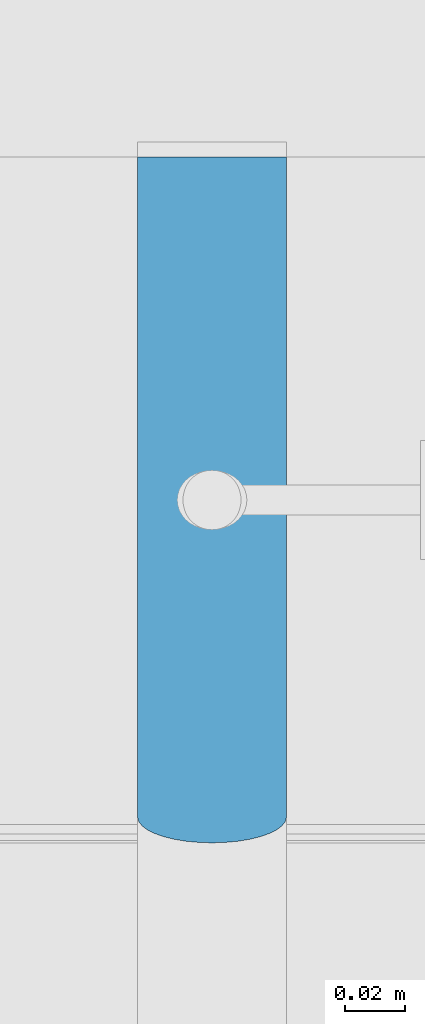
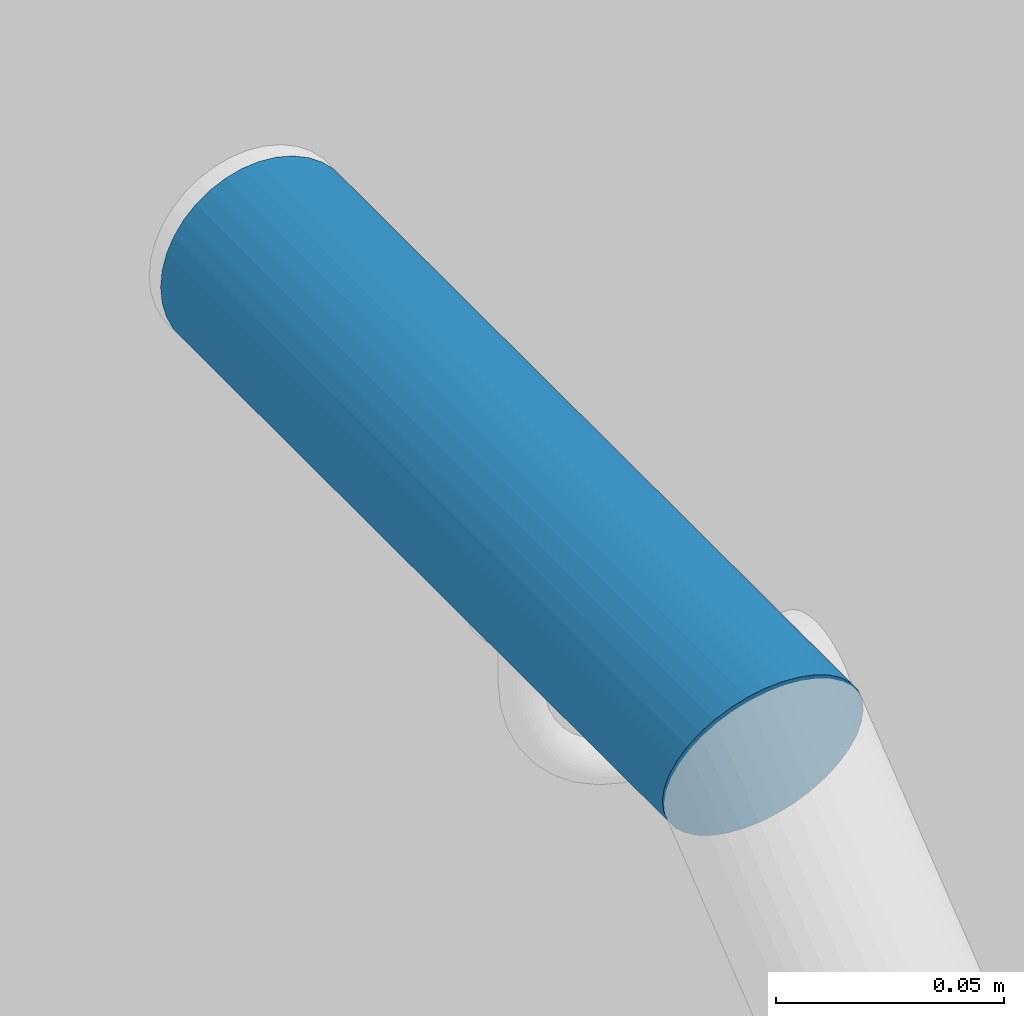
# One storey, part 20 of 338: 1 building element part, 2 elements without a shape of their own.
"""IFC2X3 building model written with IfcOpenShell, lengths in millimetres."""

from ifc_helpers import new_model, entity, si_unit, converted_unit, derived_unit, money_unit, direction, frame, origin_with_axes, place, context, subcontext, project, spatial, faceted_brep, source, transform, mapped, material, type_object, element, aggregate, save


model = new_model("IFC2X3")

# Units and contexts
model_context = context("Model", 3, precision=0.01, world=origin_with_axes(), true_north=direction((0.0, 1.0)))
plan_context = context("Plan", 3, precision=0.01, world=origin_with_axes(), true_north=direction((0.0, 1.0)))
body_context = subcontext(model_context, "Body", "Model", "MODEL_VIEW")
ifc_project = project(units=[si_unit("LENGTHUNIT", "METRE", prefix="MILLI"), si_unit("AREAUNIT", "SQUARE_METRE"), si_unit("VOLUMEUNIT", "CUBIC_METRE"), converted_unit("PLANEANGLEUNIT", "DEGREE", entity("IfcPlaneAngleMeasure", 0.0174532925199), si_unit("PLANEANGLEUNIT", "RADIAN"), dimensions=[0, 0, 0, 0, 0, 0, 0]), money_unit("EUR"), converted_unit("TIMEUNIT", "Year", entity("IfcTimeMeasure", 31556926.0), si_unit("TIMEUNIT", "SECOND"), dimensions=[0, 0, 1, 0, 0, 0, 0]), si_unit("MASSUNIT", "GRAM", prefix="KILO"), si_unit("THERMODYNAMICTEMPERATUREUNIT", "DEGREE_CELSIUS"), si_unit("LUMINOUSINTENSITYUNIT", "LUMEN"), si_unit("ENERGYUNIT", "JOULE", prefix="MEGA"), derived_unit("THERMALCONDUCTANCEUNIT", [(si_unit("POWERUNIT", "WATT"), 1), (si_unit("LENGTHUNIT", "METRE"), -1), (si_unit("THERMODYNAMICTEMPERATUREUNIT", "KELVIN"), -1)]), derived_unit("SPECIFICHEATCAPACITYUNIT", [(si_unit("ENERGYUNIT", "JOULE"), 1), (si_unit("MASSUNIT", "GRAM", prefix="KILO"), -1), (si_unit("THERMODYNAMICTEMPERATUREUNIT", "KELVIN"), -1)]), derived_unit("MASSDENSITYUNIT", [(si_unit("MASSUNIT", "GRAM", prefix="KILO"), 1), (si_unit("VOLUMEUNIT", "CUBIC_METRE"), -1)])], contexts=[model_context, plan_context])

# Site, building, storey
site_placement = place(None, origin_with_axes())
site = spatial("IfcSite", under=ifc_project, at=site_placement, Name="Fortuinstraat Woensdrecht", CompositionType="ELEMENT")
building_placement = place(site_placement, origin_with_axes())
building = spatial("IfcBuilding", under=site, at=building_placement, Name="IKC Fortuna", CompositionType="ELEMENT")
storey_placement = place(building_placement, origin_with_axes())
storey = spatial("IfcBuildingStorey", under=building, at=storey_placement, Name="00 begane grond", CompositionType="ELEMENT", Elevation=0.0)

# Railing, member, building element part
railing_type = type_object("IfcRailingType", Name="Railing Type", PredefinedType="NOTDEFINED")
railing_placement = place(storey_placement, frame((28891.8811335, 19719.7895441, 0.568181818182), z_axis=(0.0, 0.0, 1.0), x_axis=(0.642787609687, -0.766044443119, 0.0)))
railing = element("IfcRailing", 1, at=railing_placement, inside=storey, type_object=railing_type, Name="_Reling_Reling-x", PredefinedType="NOTDEFINED")
member_type = type_object("IfcMemberType", Name="IfcMember", PredefinedType="USERDEFINED")
member_placement = place(railing_placement, frame((-2012.16935745, 1483.5319084, 2843.53011874), z_axis=(0.0, 0.0, 1.0), x_axis=(0.642787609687, 0.766044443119, 0.0)))
member = element("IfcMember", 2, at=member_placement, type_object=member_type, Name="_Reling - regel_Handregel-x")
aggregate(railing, [member])
ifc_material = material(Name="Hout AFW")
shared_shape = source(origin_with_axes(), body_context, "Body", "Brep", [
    faceted_brep([(-125.0, 8.68803294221, 875.0), (-124.620193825, 7.17937185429, 879.341204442), (-124.620193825, 230.0, 879.341204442), (-125.0, 230.0, 875.0), (-124.620193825, 10.1966940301, 870.658795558), (-123.49231552, 11.6595152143, 866.449496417), (-121.650635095, 13.0320494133, 862.5), (-119.151111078, 14.27259287, 858.930309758), (-116.069690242, 15.3434522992, 855.848888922), (-112.5, 16.2120901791, 853.349364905), (-108.550503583, 16.8521133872, 851.50768448), (-104.341204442, 17.2440751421, 850.379806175), (-100.0, 17.3760658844, 850.0), (-95.6587955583, 17.2440751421, 850.379806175), (-91.4494964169, 16.8521133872, 851.50768448), (-87.5, 16.2120901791, 853.349364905), (-83.9303097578, 15.3434522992, 855.848888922), (-80.848888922, 14.27259287, 858.930309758), (-78.3493649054, 13.0320494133, 862.5), (-76.5076844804, 11.6595152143, 866.449496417), (-75.3798061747, 10.1966940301, 870.658795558), (-75.0, 8.68803294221, 875.0), (-75.3798061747, 7.17937185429, 879.341204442), (-76.5076844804, 5.7165506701, 883.550503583), (-78.3493649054, 4.34401647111, 887.5), (-80.848888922, 3.10347301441, 891.069690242), (-83.9303097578, 2.0326135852, 894.151111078), (-87.5, 1.16397570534, 896.650635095), (-91.4494964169, 0.52395249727, 898.49231552), (-95.6587955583, 0.131990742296, 899.620193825), (-100.0, 0.0, 900.0), (-104.341204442, 0.131990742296, 899.620193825), (-108.550503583, 0.523952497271, 898.49231552), (-112.5, 1.16397570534, 896.650635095), (-116.069690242, 2.0326135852, 894.151111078), (-119.151111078, 3.10347301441, 891.069690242), (-121.650635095, 4.34401647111, 887.5), (-123.49231552, 5.7165506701, 883.550503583), (-123.49231552, 230.0, 883.550503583), (-121.650635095, 230.0, 887.5), (-119.151111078, 230.0, 891.069690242), (-116.069690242, 230.0, 894.151111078), (-112.5, 230.0, 896.650635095), (-108.550503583, 230.0, 898.49231552), (-104.341204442, 230.0, 899.620193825), (-100.0, 230.0, 900.0), (-95.6587955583, 230.0, 899.620193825), (-91.4494964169, 230.0, 898.49231552), (-87.5, 230.0, 896.650635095), (-83.9303097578, 230.0, 894.151111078), (-80.848888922, 230.0, 891.069690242), (-78.3493649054, 230.0, 887.5), (-76.5076844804, 230.0, 883.550503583), (-75.3798061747, 230.0, 879.341204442), (-75.0, 230.0, 875.0), (-75.3798061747, 230.0, 870.658795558), (-76.5076844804, 230.0, 866.449496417), (-78.3493649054, 230.0, 862.5), (-80.848888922, 230.0, 858.930309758), (-83.9303097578, 230.0, 855.848888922), (-87.5, 230.0, 853.349364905), (-91.4494964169, 230.0, 851.50768448), (-95.6587955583, 230.0, 850.379806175), (-100.0, 230.0, 850.0), (-104.341204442, 230.0, 850.379806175), (-108.550503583, 230.0, 851.50768448), (-112.5, 230.0, 853.349364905), (-116.069690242, 230.0, 855.848888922), (-119.151111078, 230.0, 858.930309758), (-121.650635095, 230.0, 862.5), (-123.49231552, 230.0, 866.449496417), (-124.620193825, 230.0, 870.658795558)], [[[0, 1, 2, 3]], [[0, 4, 5, 6, 7, 8, 9, 10, 11, 12, 13, 14, 15, 16, 17, 18, 19, 20, 21, 22, 23, 24, 25, 26, 27, 28, 29, 30, 31, 32, 33, 34, 35, 36, 37, 1]], [[1, 37, 38, 2]], [[3, 2, 38, 39, 40, 41, 42, 43, 44, 45, 46, 47, 48, 49, 50, 51, 52, 53, 54, 55, 56, 57, 58, 59, 60, 61, 62, 63, 64, 65, 66, 67, 68, 69, 70, 71]], [[4, 0, 3, 71]], [[5, 4, 71, 70]], [[6, 5, 70, 69]], [[7, 6, 69, 68]], [[8, 7, 68, 67]], [[9, 8, 67, 66]], [[10, 9, 66, 65]], [[11, 10, 65, 64]], [[12, 11, 64, 63]], [[13, 12, 63, 62]], [[14, 13, 62, 61]], [[15, 14, 61, 60]], [[16, 15, 60, 59]], [[17, 16, 59, 58]], [[18, 17, 58, 57]], [[19, 18, 57, 56]], [[20, 19, 56, 55]], [[21, 20, 55, 54]], [[22, 21, 54, 53]], [[23, 22, 53, 52]], [[24, 23, 52, 51]], [[25, 24, 51, 50]], [[26, 25, 50, 49]], [[27, 26, 49, 48]], [[28, 27, 48, 47]], [[29, 28, 47, 46]], [[30, 29, 46, 45]], [[31, 30, 45, 44]], [[32, 31, 44, 43]], [[33, 32, 43, 42]], [[34, 33, 42, 41]], [[35, 34, 41, 40]], [[36, 35, 40, 39]], [[37, 36, 39, 38]]]),
])
building_element_part_placement = place(member_placement, origin_with_axes())
building_element_part = element("IfcBuildingElementPart", 3, at=building_element_part_placement, material=ifc_material, Name="Hout AFW", context=body_context, shape_type="MappedRepresentation", body=[
    mapped(shared_shape, transform((100.0, -115.0, -844.098300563))),
])
aggregate(member, [building_element_part])

save(model, "model.ifc")
